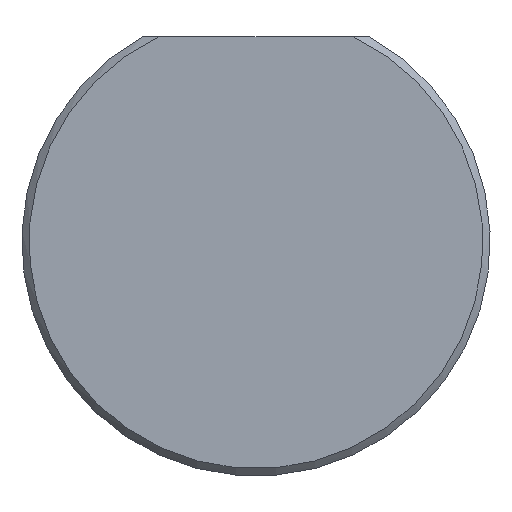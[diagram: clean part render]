
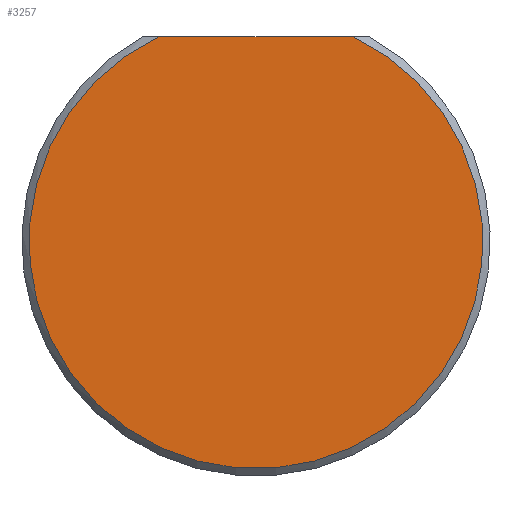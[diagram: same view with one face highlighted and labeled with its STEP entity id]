
A CAD part, front view. The second image highlights one B-rep face of the part: STEP entity #3257.
In plain terms, the highlighted planar face has unit normal (0, -1, 0).
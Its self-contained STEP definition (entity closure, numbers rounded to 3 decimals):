
#100 = VERTEX_POINT ( 'NONE', #660 ) ;
#648 = AXIS2_PLACEMENT_3D ( 'NONE', #2452, #1388, #2436 ) ;
#660 = CARTESIAN_POINT ( 'NONE',  ( 3.326, 0., 7. ) ) ;
#908 = CARTESIAN_POINT ( 'NONE',  ( 0., 0., 7. ) ) ;
#1107 = ORIENTED_EDGE ( 'NONE', *, *, #3157, .T. ) ;
#1151 = DIRECTION ( 'NONE',  ( 0., 0., 1. ) ) ;
#1161 = ORIENTED_EDGE ( 'NONE', *, *, #3052, .T. ) ;
#1388 = DIRECTION ( 'NONE',  ( 0., 1., 0. ) ) ;
#1600 = EDGE_LOOP ( 'NONE', ( #1161, #1107 ) ) ;
#1642 = DIRECTION ( 'NONE',  ( -1., 0., 0. ) ) ;
#1804 = VECTOR ( 'NONE', #1642, 1000. ) ;
#1885 = DIRECTION ( 'NONE',  ( 0., -1., 0. ) ) ;
#1920 = PLANE ( 'NONE',  #648 ) ;
#2183 = AXIS2_PLACEMENT_3D ( 'NONE', #3234, #1885, #1151 ) ;
#2436 = DIRECTION ( 'NONE',  ( 0., 0., 1. ) ) ;
#2452 = CARTESIAN_POINT ( 'NONE',  ( 0., 0., 0. ) ) ;
#2471 = LINE ( 'NONE', #908, #1804 ) ;
#2690 = FACE_OUTER_BOUND ( 'NONE', #1600, .T. ) ;
#2742 = CARTESIAN_POINT ( 'NONE',  ( -3.326, 0., 7. ) ) ;
#2894 = CIRCLE ( 'NONE', #2183, 7.75 ) ;
#2967 = VERTEX_POINT ( 'NONE', #2742 ) ;
#3052 = EDGE_CURVE ( 'NONE', #100, #2967, #2471, .T. ) ;
#3157 = EDGE_CURVE ( 'NONE', #2967, #100, #2894, .T. ) ;
#3234 = CARTESIAN_POINT ( 'NONE',  ( 0., 0., 0. ) ) ;
#3257 = ADVANCED_FACE ( 'NONE', ( #2690 ), #1920, .F. ) ;
